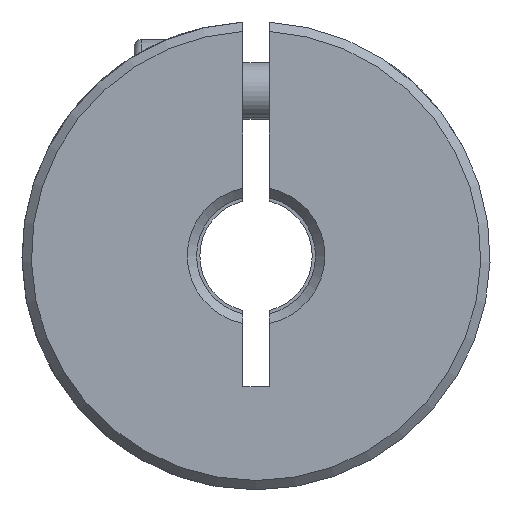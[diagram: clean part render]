
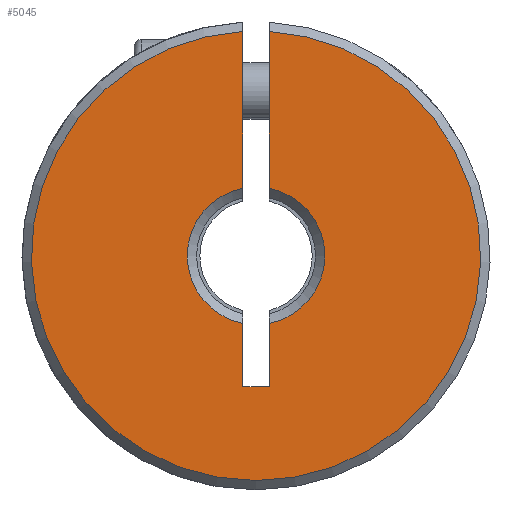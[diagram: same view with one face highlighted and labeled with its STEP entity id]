
A CAD part, front view. The second image highlights one B-rep face of the part: STEP entity #5045.
In plain terms, the highlighted planar face has unit normal (0, -1, 0).
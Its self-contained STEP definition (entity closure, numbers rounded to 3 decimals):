
#70 = LINE ( 'NONE', #1383, #1939 ) ;
#90 = CARTESIAN_POINT ( 'NONE',  ( 0.7, 0.25, -7. ) ) ;
#235 = LINE ( 'NONE', #670, #1346 ) ;
#267 = CIRCLE ( 'NONE', #4730, 3.675 ) ;
#325 = ORIENTED_EDGE ( 'NONE', *, *, #1313, .F. ) ;
#332 = CARTESIAN_POINT ( 'NONE',  ( -0.7, 0.25, 3.608 ) ) ;
#404 = ORIENTED_EDGE ( 'NONE', *, *, #666, .F. ) ;
#459 = VERTEX_POINT ( 'NONE', #2703 ) ;
#557 = DIRECTION ( 'NONE',  ( 1., 0., 0. ) ) ;
#666 = EDGE_CURVE ( 'NONE', #4435, #1284, #70, .T. ) ;
#670 = CARTESIAN_POINT ( 'NONE',  ( -0.7, 0.25, -7. ) ) ;
#675 = EDGE_CURVE ( 'NONE', #1222, #459, #976, .T. ) ;
#685 = EDGE_CURVE ( 'NONE', #1284, #4809, #4715, .T. ) ;
#730 = VECTOR ( 'NONE', #962, 1000. ) ;
#919 = DIRECTION ( 'NONE',  ( 0., 0., 1. ) ) ;
#956 = LINE ( 'NONE', #2633, #1337 ) ;
#962 = DIRECTION ( 'NONE',  ( 0., 0., 1. ) ) ;
#976 = CIRCLE ( 'NONE', #4745, 12. ) ;
#1094 = AXIS2_PLACEMENT_3D ( 'NONE', #5229, #5413, #4472 ) ;
#1116 = FACE_OUTER_BOUND ( 'NONE', #4011, .T. ) ;
#1222 = VERTEX_POINT ( 'NONE', #5346 ) ;
#1234 = VECTOR ( 'NONE', #3852, 1000. ) ;
#1284 = VERTEX_POINT ( 'NONE', #2532 ) ;
#1313 = EDGE_CURVE ( 'NONE', #1222, #4252, #2185, .T. ) ;
#1337 = VECTOR ( 'NONE', #5048, 1000. ) ;
#1346 = VECTOR ( 'NONE', #4331, 1000. ) ;
#1350 = CIRCLE ( 'NONE', #4671, 3.675 ) ;
#1383 = CARTESIAN_POINT ( 'NONE',  ( 0.7, 0.25, -7. ) ) ;
#1561 = EDGE_CURVE ( 'NONE', #5134, #4252, #267, .T. ) ;
#1741 = CARTESIAN_POINT ( 'NONE',  ( -0.7, 0.25, -7. ) ) ;
#1815 = CARTESIAN_POINT ( 'NONE',  ( 0.7, 0.25, -3.608 ) ) ;
#1926 = ORIENTED_EDGE ( 'NONE', *, *, #685, .F. ) ;
#1939 = VECTOR ( 'NONE', #557, 1000. ) ;
#2185 = LINE ( 'NONE', #2582, #1234 ) ;
#2204 = EDGE_CURVE ( 'NONE', #3001, #459, #956, .T. ) ;
#2507 = CARTESIAN_POINT ( 'NONE',  ( 0.7, 0.25, 3.608 ) ) ;
#2532 = CARTESIAN_POINT ( 'NONE',  ( 0.7, 0.25, -7. ) ) ;
#2582 = CARTESIAN_POINT ( 'NONE',  ( -0.7, 0.25, -7. ) ) ;
#2633 = CARTESIAN_POINT ( 'NONE',  ( 0.7, 0.25, -7. ) ) ;
#2703 = CARTESIAN_POINT ( 'NONE',  ( 0.7, 0.25, 11.98 ) ) ;
#2815 = CARTESIAN_POINT ( 'NONE',  ( 0., 0.25, 0. ) ) ;
#2844 = DIRECTION ( 'NONE',  ( 0., 1., 0. ) ) ;
#3001 = VERTEX_POINT ( 'NONE', #2507 ) ;
#3049 = DIRECTION ( 'NONE',  ( 0., -1., 0. ) ) ;
#3057 = ORIENTED_EDGE ( 'NONE', *, *, #4072, .T. ) ;
#3312 = DIRECTION ( 'NONE',  ( 0., 0., 1. ) ) ;
#3489 = ORIENTED_EDGE ( 'NONE', *, *, #675, .T. ) ;
#3597 = EDGE_CURVE ( 'NONE', #5134, #4435, #235, .T. ) ;
#3638 = PLANE ( 'NONE',  #1094 ) ;
#3852 = DIRECTION ( 'NONE',  ( 0., 0., -1. ) ) ;
#3865 = DIRECTION ( 'NONE',  ( 0., 0., 1. ) ) ;
#3876 = ORIENTED_EDGE ( 'NONE', *, *, #1561, .T. ) ;
#3981 = ORIENTED_EDGE ( 'NONE', *, *, #3597, .F. ) ;
#4011 = EDGE_LOOP ( 'NONE', ( #4882, #3057, #1926, #404, #3981, #3876, #325, #3489 ) ) ;
#4072 = EDGE_CURVE ( 'NONE', #3001, #4809, #1350, .T. ) ;
#4252 = VERTEX_POINT ( 'NONE', #332 ) ;
#4331 = DIRECTION ( 'NONE',  ( 0., 0., -1. ) ) ;
#4351 = DIRECTION ( 'NONE',  ( 0., 1., 0. ) ) ;
#4435 = VERTEX_POINT ( 'NONE', #1741 ) ;
#4472 = DIRECTION ( 'NONE',  ( 0., 0., 1. ) ) ;
#4670 = CARTESIAN_POINT ( 'NONE',  ( 0., 0.25, 0. ) ) ;
#4671 = AXIS2_PLACEMENT_3D ( 'NONE', #4799, #4351, #3865 ) ;
#4715 = LINE ( 'NONE', #90, #730 ) ;
#4730 = AXIS2_PLACEMENT_3D ( 'NONE', #2815, #2844, #3312 ) ;
#4745 = AXIS2_PLACEMENT_3D ( 'NONE', #4670, #3049, #919 ) ;
#4799 = CARTESIAN_POINT ( 'NONE',  ( 0., 0.25, 0. ) ) ;
#4809 = VERTEX_POINT ( 'NONE', #1815 ) ;
#4882 = ORIENTED_EDGE ( 'NONE', *, *, #2204, .F. ) ;
#5045 = ADVANCED_FACE ( 'NONE', ( #1116 ), #3638, .F. ) ;
#5048 = DIRECTION ( 'NONE',  ( 0., 0., 1. ) ) ;
#5050 = CARTESIAN_POINT ( 'NONE',  ( -0.7, 0.25, -3.608 ) ) ;
#5134 = VERTEX_POINT ( 'NONE', #5050 ) ;
#5229 = CARTESIAN_POINT ( 'NONE',  ( 12.5, 0.25, -50. ) ) ;
#5346 = CARTESIAN_POINT ( 'NONE',  ( -0.7, 0.25, 11.98 ) ) ;
#5413 = DIRECTION ( 'NONE',  ( 0., 1., 0. ) ) ;
